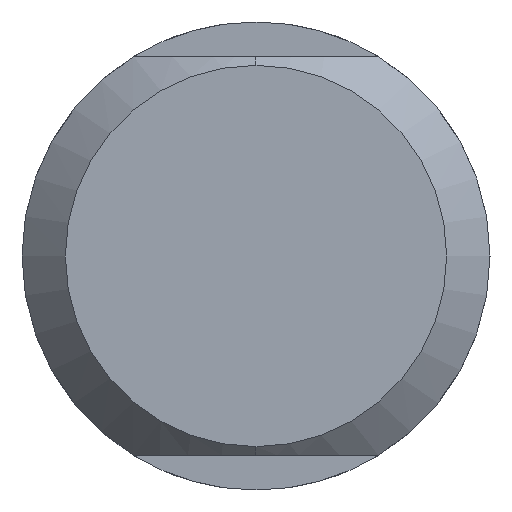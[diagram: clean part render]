
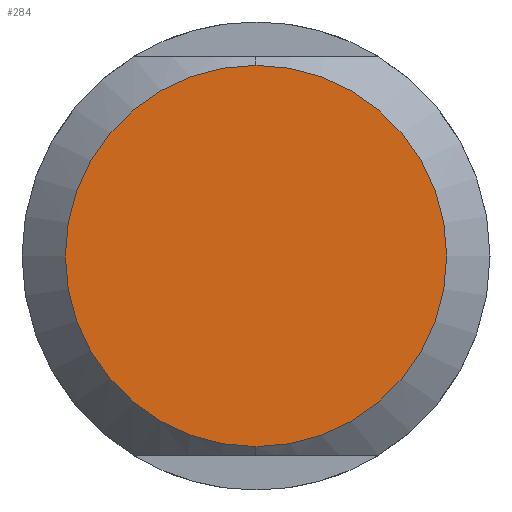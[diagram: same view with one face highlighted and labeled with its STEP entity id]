
A CAD part, left-side view. The second image highlights one B-rep face of the part: STEP entity #284.
In plain terms, the highlighted planar face has unit normal (-1, 0, 0).
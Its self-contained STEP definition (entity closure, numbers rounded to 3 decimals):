
#9 = DIRECTION ( 'NONE',  ( 0., 0., -1. ) ) ;
#38 = CARTESIAN_POINT ( 'NONE',  ( 0., 0., 0. ) ) ;
#165 = CARTESIAN_POINT ( 'NONE',  ( 0., 0., 0. ) ) ;
#201 = ORIENTED_EDGE ( 'NONE', *, *, #625, .T. ) ;
#220 = DIRECTION ( 'NONE',  ( -1., 0., 0. ) ) ;
#240 = ORIENTED_EDGE ( 'NONE', *, *, #797, .T. ) ;
#284 = ADVANCED_FACE ( 'NONE', ( #458 ), #740, .F. ) ;
#309 = CIRCLE ( 'NONE', #660, 11. ) ;
#396 = AXIS2_PLACEMENT_3D ( 'NONE', #165, #411, #834 ) ;
#411 = DIRECTION ( 'NONE',  ( 1., 0., 0. ) ) ;
#416 = DIRECTION ( 'NONE',  ( -1., 0., 0. ) ) ;
#458 = FACE_OUTER_BOUND ( 'NONE', #702, .T. ) ;
#525 = AXIS2_PLACEMENT_3D ( 'NONE', #38, #220, #9 ) ;
#528 = CARTESIAN_POINT ( 'NONE',  ( 0., 0., 0. ) ) ;
#569 = CARTESIAN_POINT ( 'NONE',  ( 0., 0., -11. ) ) ;
#625 = EDGE_CURVE ( 'NONE', #827, #874, #673, .T. ) ;
#640 = CARTESIAN_POINT ( 'NONE',  ( 0., 0., 11. ) ) ;
#660 = AXIS2_PLACEMENT_3D ( 'NONE', #528, #416, #767 ) ;
#673 = CIRCLE ( 'NONE', #525, 11. ) ;
#702 = EDGE_LOOP ( 'NONE', ( #201, #240 ) ) ;
#740 = PLANE ( 'NONE',  #396 ) ;
#767 = DIRECTION ( 'NONE',  ( 0., 0., -1. ) ) ;
#797 = EDGE_CURVE ( 'NONE', #874, #827, #309, .T. ) ;
#827 = VERTEX_POINT ( 'NONE', #569 ) ;
#834 = DIRECTION ( 'NONE',  ( 0., 0., -1. ) ) ;
#874 = VERTEX_POINT ( 'NONE', #640 ) ;
